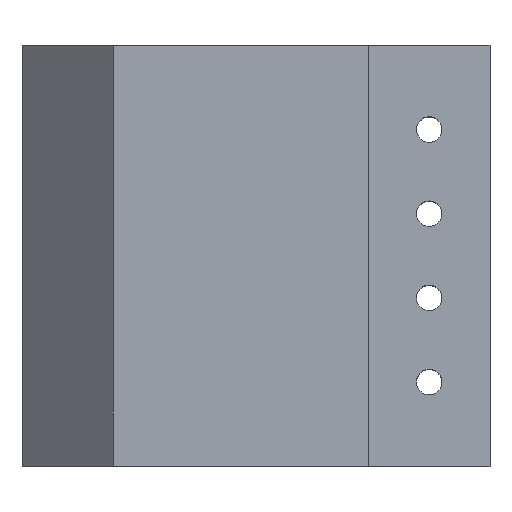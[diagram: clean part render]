
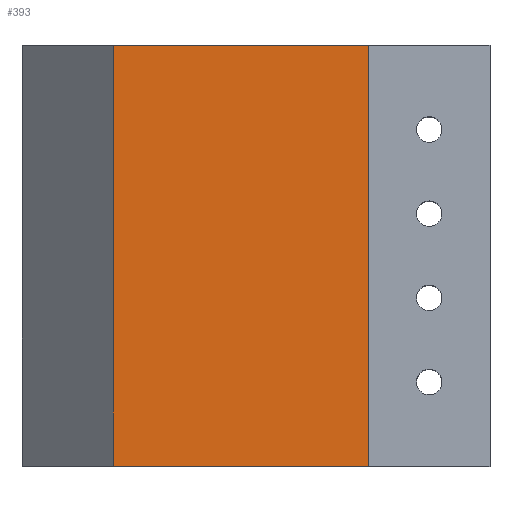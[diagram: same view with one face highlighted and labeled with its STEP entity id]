
A CAD part, top view. The second image highlights one B-rep face of the part: STEP entity #393.
In plain terms, the highlighted planar face has unit normal (0, 0, 1).
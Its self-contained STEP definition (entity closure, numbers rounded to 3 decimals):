
#36=PLANE('',#442);
#57=FACE_OUTER_BOUND('',#85,.T.);
#85=EDGE_LOOP('',(#339,#340,#341,#342));
#110=LINE('',#604,#147);
#113=LINE('',#609,#150);
#125=LINE('',#649,#162);
#126=LINE('',#651,#163);
#147=VECTOR('',#490,10.);
#150=VECTOR('',#495,10.);
#162=VECTOR('',#539,10.);
#163=VECTOR('',#542,10.);
#200=VERTEX_POINT('',#601);
#201=VERTEX_POINT('',#603);
#202=VERTEX_POINT('',#607);
#214=VERTEX_POINT('',#647);
#238=EDGE_CURVE('',#200,#201,#110,.T.);
#241=EDGE_CURVE('',#201,#202,#113,.T.);
#261=EDGE_CURVE('',#200,#214,#125,.T.);
#262=EDGE_CURVE('',#202,#214,#126,.T.);
#339=ORIENTED_EDGE('',*,*,#241,.F.);
#340=ORIENTED_EDGE('',*,*,#238,.F.);
#341=ORIENTED_EDGE('',*,*,#261,.T.);
#342=ORIENTED_EDGE('',*,*,#262,.F.);
#393=ADVANCED_FACE('',(#57),#36,.T.);
#442=AXIS2_PLACEMENT_3D('',#650,#540,#541);
#490=DIRECTION('',(-1.,0.,0.));
#495=DIRECTION('',(0.,1.,0.));
#539=DIRECTION('',(0.,1.,0.));
#540=DIRECTION('center_axis',(0.,0.,1.));
#541=DIRECTION('ref_axis',(1.,0.,0.));
#542=DIRECTION('',(1.,0.,0.));
#601=CARTESIAN_POINT('',(25.5,0.,31.5));
#603=CARTESIAN_POINT('',(-16.5,0.,31.5));
#604=CARTESIAN_POINT('',(45.5,0.,31.5));
#607=CARTESIAN_POINT('',(-16.5,69.25,31.5));
#609=CARTESIAN_POINT('',(-16.5,0.,31.5));
#647=CARTESIAN_POINT('',(25.5,69.25,31.5));
#649=CARTESIAN_POINT('',(25.5,0.,31.5));
#650=CARTESIAN_POINT('Origin',(-31.5,0.,31.5));
#651=CARTESIAN_POINT('',(45.5,69.25,31.5));
